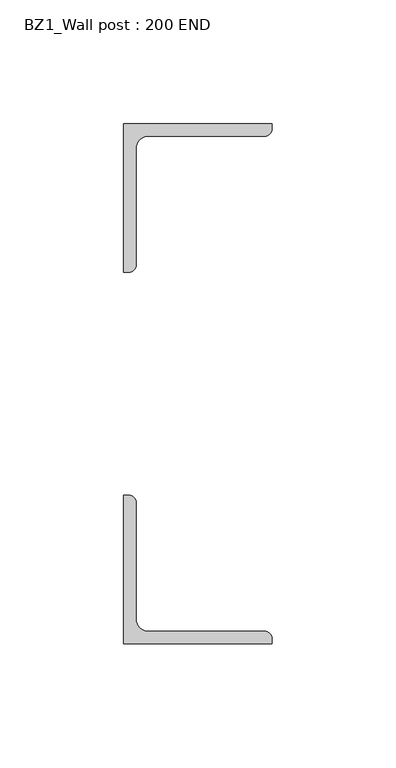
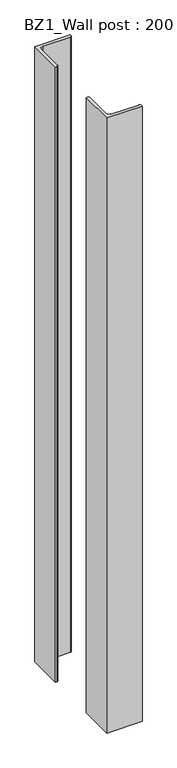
"""IFC4 building model written with IfcOpenShell, lengths in millimetres: beam geometry, BZ1_Wall post : 200 END."""

from ifc_helpers import new_model, si_unit, point, frame_2d, origin, origin_with_axes, place, context, project, spatial, polyline, circle_curve, trimmed, segment, composite_curve, outline, extrude, source, transform, mapped, element, save


def bz1_wall_post_200_end_fdf059dd(model_context):
    return source(origin(), model_context, "Body", "SweptSolid", [
        extrude(outline(composite_curve([segment(polyline([(0.0, 45.0), (0.0, 105.0), (60.0, 105.0), (60.0, 103.0)]), True, "CONTINUOUS"), segment(trimmed(circle_curve(frame_2d((57.0, 103.0)), 3.0), [point((60.0, 103.0))], [point((57.0, 100.0))], False, "CARTESIAN"), True, "CONTINUOUS"), segment(polyline([(57.0, 100.0), (10.0, 100.0)]), True, "CONTINUOUS"), segment(trimmed(circle_curve(frame_2d((10.0, 95.0)), 5.0), [point((10.0, 100.0))], [point((5.0, 95.0))], True, "CARTESIAN"), True, "CONTINUOUS"), segment(polyline([(5.0, 95.0), (5.0, 48.0)]), True, "CONTINUOUS"), segment(trimmed(circle_curve(frame_2d((2.0, 48.0)), 3.0), [point((5.0, 48.0))], [point((2.0, 45.0))], False, "CARTESIAN"), True, "CONTINUOUS"), segment(polyline([(2.0, 45.0), (0.0, 45.0)]), True, "CONTINUOUS")], self_intersect=False)), origin_with_axes(), (0.0, 0.0, 1.0), 1100.0),
        extrude(outline(composite_curve([segment(polyline([(0.0, -45.0), (2.0, -45.0)]), True, "CONTINUOUS"), segment(trimmed(circle_curve(frame_2d((2.0, -48.0)), 3.0), [point((2.0, -45.0))], [point((5.0, -48.0))], False, "CARTESIAN"), True, "CONTINUOUS"), segment(polyline([(5.0, -48.0), (5.0, -95.0)]), True, "CONTINUOUS"), segment(trimmed(circle_curve(frame_2d((10.0, -95.0)), 5.0), [point((5.0, -95.0))], [point((10.0, -100.0))], True, "CARTESIAN"), True, "CONTINUOUS"), segment(polyline([(10.0, -100.0), (57.0, -100.0)]), True, "CONTINUOUS"), segment(trimmed(circle_curve(frame_2d((57.0, -103.0)), 3.0), [point((57.0, -100.0))], [point((60.0, -103.0))], False, "CARTESIAN"), True, "CONTINUOUS"), segment(polyline([(60.0, -103.0), (60.0, -105.0), (0.0, -105.0), (0.0, -45.0)]), True, "CONTINUOUS")], self_intersect=False)), origin_with_axes(), (0.0, 0.0, 1.0), 1100.0),
    ])


if __name__ == "__main__":
    model = new_model("IFC4")
    model_context = context("Model", 3, world=origin())
    ifc_project = project(units=[si_unit("LENGTHUNIT", "METRE", prefix="MILLI")], contexts=[model_context])
    site = spatial("IfcSite", under=ifc_project)
    building = spatial("IfcBuilding", under=site)
    placement = place(None, origin())
    bz1_wall_post_200_end_shape = bz1_wall_post_200_end_fdf059dd(model_context)
    element("IfcBeam", 1, ObjectType="BZ1_Wall post : 200 END", at=placement, inside=building, context=model_context, shape_type="MappedRepresentation", body=[
        mapped(bz1_wall_post_200_end_shape, transform((0.0, 0.0, 0.0), x_axis=(1.0, 0.0, 0.0), y_axis=(0.0, 1.0, 0.0), z_axis=(0.0, 0.0, 1.0))),
    ])
    save(model, "model.ifc")
